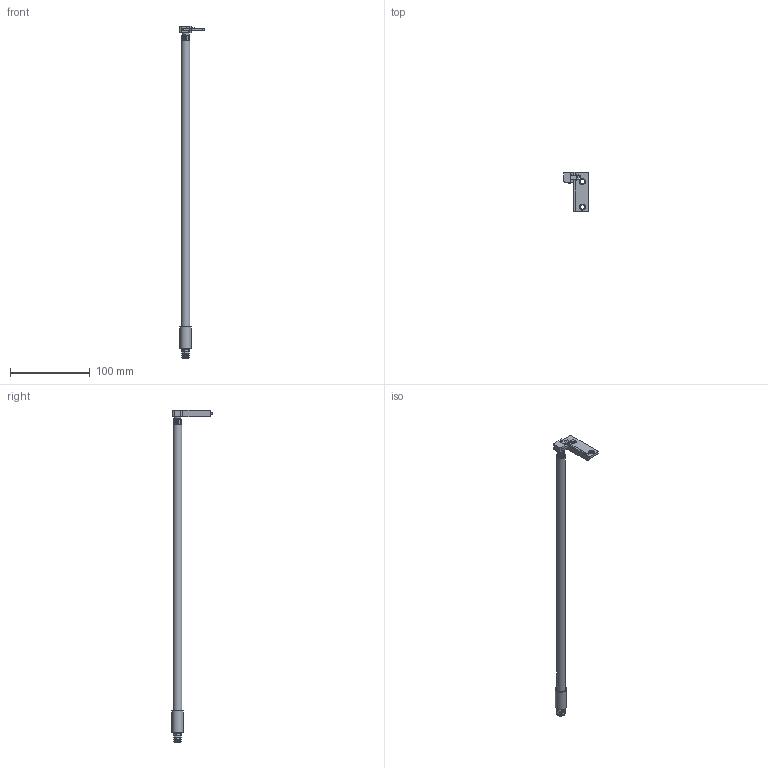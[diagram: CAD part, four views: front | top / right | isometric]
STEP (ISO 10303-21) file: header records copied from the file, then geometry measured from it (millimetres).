
FILE_DESCRIPTION(/* description */ (''),/* implementation_level */ '2;1');
FILE_NAME(/* name */ 'W:\R&D\pub\Katalog techniczny\Bryły PIM\2020\RS-SZ-500.stp',/* time_stamp */ '2020-03-23T12:22:13+01:00',/* author */ ('tomaszw'),/* organization */ (''),/* preprocessor_version */ 'ST-DEVELOPER v18',/* originating_system */ 'Autodesk Inventor 2020',/* authorisation */ '');
FILE_SCHEMA (('AUTOMOTIVE_DESIGN { 1 0 10303 214 3 1 1 }'));
Length unit declared in the file: millimetre
Products named in the file (8): RELING do Metalbox; Bryła2; Bryła3; Bryła4; Bryła5; Bryła1-01; Bryła6; zatrzask MPdo relingu
Assembly tree (7 placements, depth 2):
  RELING do Metalbox
    Bryła2
    Bryła3
    Bryła4
    Bryła5
    Bryła1-01
    Bryła6
    zatrzask MPdo relingu
Bounding box: 31.25 x 50.48 x 417.59 mm (x, y, z)
Volume: 19766 mm3; surface area: 32285.7 mm2
Topology: 7 solids, 7 shells, 290 faces, 831 edges, 557 vertices
Faces by surface type: plane 134, cylinder 67, bspline 54, cone 31, torus 4
Full cylindrical faces by diameter (mm): 2.25 x2, 2.5 x2, 5.5 x4, 8.6 x3, 9 x1, 9.5 x1, 10.4 x1, 10.5 x1, 11 x1, 11.2 x1, 14 x1
Entity records: 12124 total; most frequent: CARTESIAN_POINT 4773, ORIENTED_EDGE 1662, DIRECTION 1212, EDGE_CURVE 831, VERTEX_POINT 557, AXIS2_PLACEMENT_3D 427, LINE 358, VECTOR 358
